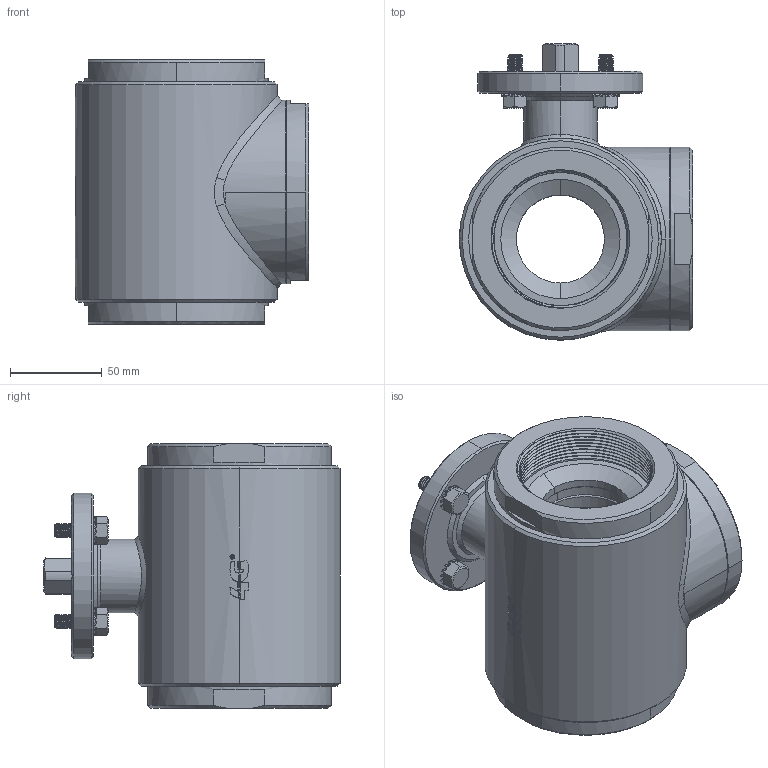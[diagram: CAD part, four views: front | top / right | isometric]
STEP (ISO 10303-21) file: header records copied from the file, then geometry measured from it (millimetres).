
FILE_DESCRIPTION((''),'2;1');
FILE_NAME('30300164210','2024-11-14T10:42:20',('tecnico2'),('CDM Tecnoconsulting'),'CREO PARAMETRIC BY PTC INC, 2024063','CREO PARAMETRIC BY PTC INC, 2024063','');
FILE_SCHEMA(('CONFIG_CONTROL_DESIGN','SHAPE_APPEARANCE_LAYERS_GROUPS'));
Products named in the file (1): 30300164210
Bounding box: 127 x 161.5 x 144 mm (x, y, z)
Volume: 930678.6 mm3; surface area: 248081.3 mm2
Topology: 1 solids, 1 shells, 1472 faces, 4052 edges, 2629 vertices
Faces by surface type: cylinder 518, plane 506, cone 211, bspline 143, extrusion 56, torus 36, sphere 2
Entity records: 123156 total; most frequent: CARTESIAN_POINT 73417, ORIENTED_EDGE 8092, DIRECTION 6024, PRESENTATION_STYLE_ASSIGNMENT 4469, STYLED_ITEM 4103, CURVE_STYLE 4102, EDGE_CURVE 4046, VERTEX_POINT 2629
